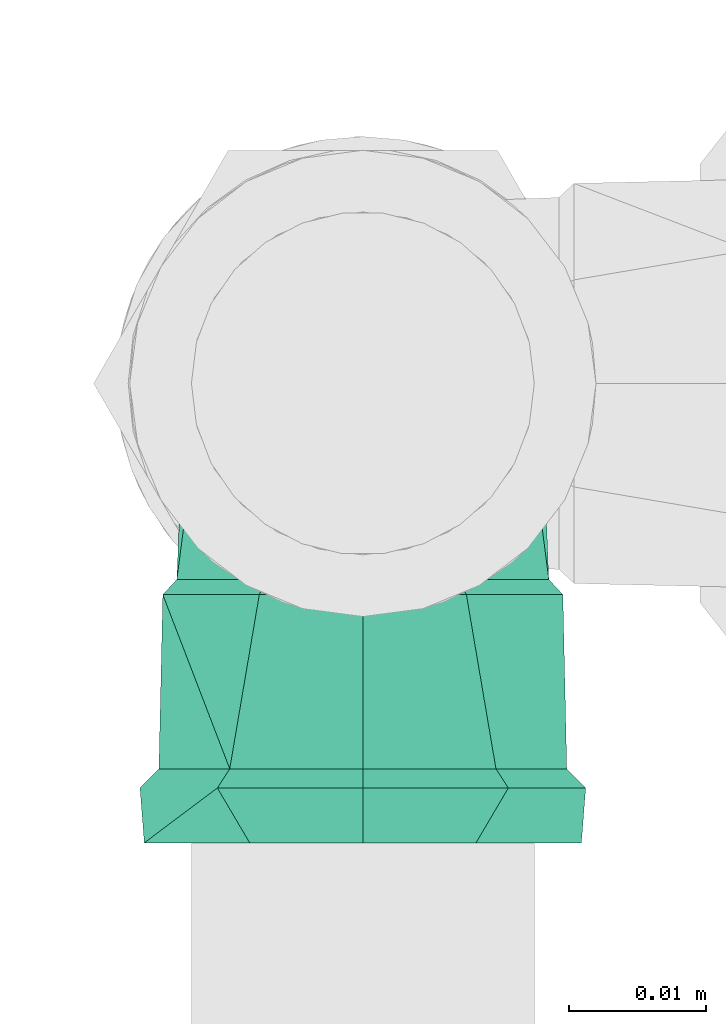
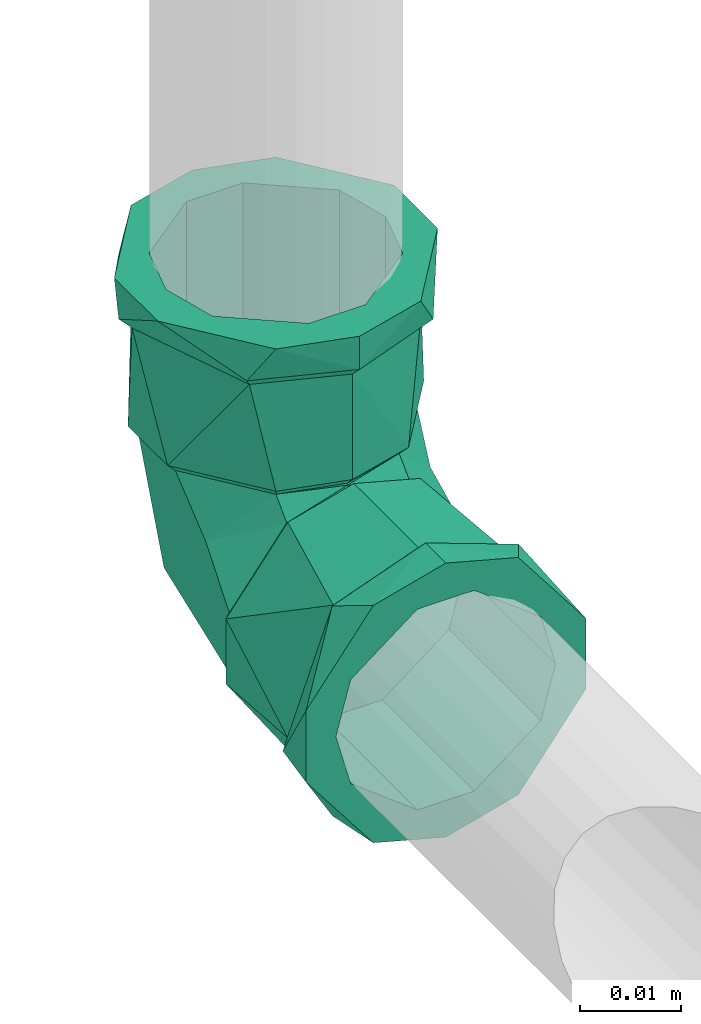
# One storey, part 379 of 589: 1 flow fitting.
"""IFC2X3 building model written with IfcOpenShell, lengths in millimetres."""

from ifc_helpers import new_model, entity, si_unit, converted_unit, derived_unit, direction, frame, origin, place, context, subcontext, project, spatial, faceted_brep, source, transform, mapped, material, type_object, type_shapes, element, save


model = new_model("IFC2X3")

# Units and contexts
model_context = context("Model", 3, precision=0.01, world=origin(), true_north=direction((6.123031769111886e-17, 1.0)))
body_context = subcontext(model_context, "Body", "Model", "MODEL_VIEW")
ifc_project = project(units=[si_unit("LENGTHUNIT", "METRE", prefix="MILLI"), si_unit("AREAUNIT", "SQUARE_METRE"), si_unit("VOLUMEUNIT", "CUBIC_METRE"), converted_unit("PLANEANGLEUNIT", "DEGREE", entity("IfcRatioMeasure", 0.017453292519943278), si_unit("PLANEANGLEUNIT", "RADIAN"), dimensions=[0, 0, 0, 0, 0, 0, 0]), si_unit("MASSUNIT", "GRAM", prefix="KILO"), derived_unit("MASSDENSITYUNIT", [(si_unit("MASSUNIT", "GRAM", prefix="KILO"), 1), (si_unit("LENGTHUNIT", "METRE"), -3)]), derived_unit("IONCONCENTRATIONUNIT", [(si_unit("MASSUNIT", "GRAM", prefix="KILO"), 1), (si_unit("LENGTHUNIT", "METRE"), -3)]), derived_unit("MOMENTOFINERTIAUNIT", [(si_unit("LENGTHUNIT", "METRE"), 4)]), si_unit("TIMEUNIT", "SECOND"), si_unit("FREQUENCYUNIT", "HERTZ"), si_unit("THERMODYNAMICTEMPERATUREUNIT", "DEGREE_CELSIUS"), derived_unit("THERMALTRANSMITTANCEUNIT", [(si_unit("MASSUNIT", "GRAM", prefix="KILO"), 1), (si_unit("THERMODYNAMICTEMPERATUREUNIT", "KELVIN"), -1), (si_unit("TIMEUNIT", "SECOND"), -3)]), derived_unit("THERMALCONDUCTANCEUNIT", [(si_unit("MASSUNIT", "GRAM", prefix="KILO"), 1), (si_unit("THERMODYNAMICTEMPERATUREUNIT", "KELVIN"), -1), (si_unit("TIMEUNIT", "SECOND"), -3), (si_unit("LENGTHUNIT", "METRE"), 1)]), derived_unit("VOLUMETRICFLOWRATEUNIT", [(si_unit("LENGTHUNIT", "METRE"), 3), (si_unit("TIMEUNIT", "SECOND"), -1)]), derived_unit("MASSFLOWRATEUNIT", [(si_unit("MASSUNIT", "GRAM", prefix="KILO"), 1), (si_unit("TIMEUNIT", "SECOND"), -1)]), derived_unit("ROTATIONALFREQUENCYUNIT", [(si_unit("TIMEUNIT", "SECOND"), -1)]), si_unit("ELECTRICCURRENTUNIT", "AMPERE"), si_unit("ELECTRICVOLTAGEUNIT", "VOLT"), si_unit("POWERUNIT", "WATT"), si_unit("FORCEUNIT", "NEWTON", prefix="KILO"), si_unit("ILLUMINANCEUNIT", "LUX"), si_unit("LUMINOUSFLUXUNIT", "LUMEN"), si_unit("LUMINOUSINTENSITYUNIT", "CANDELA"), derived_unit("USERDEFINED", [(si_unit("MASSUNIT", "GRAM", prefix="KILO"), -1), (si_unit("LENGTHUNIT", "METRE"), -2), (si_unit("TIMEUNIT", "SECOND"), 3), (si_unit("LUMINOUSFLUXUNIT", "LUMEN"), 1)]), derived_unit("USERDEFINED", [(si_unit("MASSUNIT", "GRAM", prefix="KILO"), 1), (si_unit("TIMEUNIT", "SECOND"), -3), (si_unit("LENGTHUNIT", "METRE"), 3), (si_unit("ELECTRICCURRENTUNIT", "AMPERE"), -2)]), derived_unit("SOUNDPOWERUNIT", [(si_unit("MASSUNIT", "GRAM", prefix="KILO"), 1), (si_unit("TIMEUNIT", "SECOND"), -3), (si_unit("LENGTHUNIT", "METRE"), 2)]), derived_unit("SOUNDPRESSUREUNIT", [(si_unit("MASSUNIT", "GRAM", prefix="KILO"), 1), (si_unit("LENGTHUNIT", "METRE"), -1), (si_unit("TIMEUNIT", "SECOND"), -2)]), derived_unit("LINEARVELOCITYUNIT", [(si_unit("LENGTHUNIT", "METRE"), 1), (si_unit("TIMEUNIT", "SECOND"), -1)]), si_unit("PRESSUREUNIT", "PASCAL"), derived_unit("USERDEFINED", [(si_unit("MASSUNIT", "GRAM", prefix="KILO"), 1), (si_unit("LENGTHUNIT", "METRE"), -2), (si_unit("TIMEUNIT", "SECOND"), -2)]), derived_unit("LINEARFORCEUNIT", [(si_unit("MASSUNIT", "GRAM", prefix="KILO"), 1), (si_unit("TIMEUNIT", "SECOND"), -2)]), derived_unit("PLANARFORCEUNIT", [(si_unit("MASSUNIT", "GRAM", prefix="KILO"), 1), (si_unit("LENGTHUNIT", "METRE"), -1), (si_unit("TIMEUNIT", "SECOND"), -2)]), derived_unit("SPECIFICHEATCAPACITYUNIT", [(si_unit("THERMODYNAMICTEMPERATUREUNIT", "KELVIN"), -1), (si_unit("LENGTHUNIT", "METRE"), 2), (si_unit("TIMEUNIT", "SECOND"), -2)]), derived_unit("HEATINGVALUEUNIT", [(si_unit("LENGTHUNIT", "METRE"), 2), (si_unit("TIMEUNIT", "SECOND"), -2)]), derived_unit("VAPORPERMEABILITYUNIT", [(si_unit("LENGTHUNIT", "METRE"), -1), (si_unit("TIMEUNIT", "SECOND"), 1)]), derived_unit("DYNAMICVISCOSITYUNIT", [(si_unit("MASSUNIT", "GRAM", prefix="KILO"), 1), (si_unit("TIMEUNIT", "SECOND"), -1), (si_unit("LENGTHUNIT", "METRE"), -1)]), derived_unit("THERMALEXPANSIONCOEFFICIENTUNIT", [(si_unit("THERMODYNAMICTEMPERATUREUNIT", "KELVIN"), -1)]), derived_unit("MODULUSOFELASTICITYUNIT", [(si_unit("MASSUNIT", "GRAM", prefix="KILO"), 1), (si_unit("LENGTHUNIT", "METRE"), -1), (si_unit("TIMEUNIT", "SECOND"), -2)]), derived_unit("ISOTHERMALMOISTURECAPACITYUNIT", [(si_unit("LENGTHUNIT", "METRE"), 3), (si_unit("MASSUNIT", "GRAM", prefix="KILO"), -1)]), derived_unit("MOISTUREDIFFUSIVITYUNIT", [(si_unit("TIMEUNIT", "SECOND"), -1), (si_unit("LENGTHUNIT", "METRE"), 2)])], contexts=[model_context])

# Site, building, storey
site_placement = place(None, origin())
site = spatial("IfcSite", under=ifc_project, at=site_placement, Name="Default", CompositionType="ELEMENT")
building_placement = place(site_placement, origin())
building = spatial("IfcBuilding", under=site, at=building_placement, CompositionType="ELEMENT")
storey_placement = place(building_placement, frame((0.0, 0.0, 100.0)))
storey = spatial("IfcBuildingStorey", under=building, at=storey_placement, Name="TÉRREO", CompositionType="ELEMENT", Elevation=100.0)

# Flow fitting
ifc_material = material(Name="PVC Marrom")
pipe_fitting_type = type_object("IfcPipeFittingType", Name="PVC Marrom Soldável_Joelho 45°_90°_Rodrigo MEP:Joelho", PredefinedType="NOTDEFINED", material=ifc_material)
shared_shape = source(origin(), body_context, "Body", "Brep", [
    faceted_brep([(3.908167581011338, 15.40000000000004, 14.585479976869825), (13.076983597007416, 15.40000000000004, 7.549999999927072), (15.099999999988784, 15.40000000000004, 0.0), (13.076983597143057, 15.40000000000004, -7.55000000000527), (3.9081675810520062, 15.40000000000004, -14.585479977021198), (-3.9081675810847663, 15.40000000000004, -14.585479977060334), (-13.076983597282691, 15.40000000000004, -7.550000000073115), (-15.100000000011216, 15.40000000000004, 0.0), (-13.076983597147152, 15.40000000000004, 7.549999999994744), (-3.908167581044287, 15.40000000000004, 14.585479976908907), (-3.633819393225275, 14.30000000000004, 13.561598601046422), (-12.158996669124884, 14.30000000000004, 7.0199999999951), (-14.040000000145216, 14.30000000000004, 0.0), (-12.158996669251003, 14.30000000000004, -7.020000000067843), (-3.6338193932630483, 14.30000000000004, -13.561598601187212), (3.6338193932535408, 14.30000000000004, -13.561598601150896), (12.158996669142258, 14.30000000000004, -7.020000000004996), (14.039999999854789, 14.30000000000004, 0.0), (12.158996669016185, 14.30000000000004, 7.0199999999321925), (3.6338193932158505, 14.30000000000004, 13.561598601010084)], [[[0, 1, 2, 3, 4, 5, 6, 7, 8, 9]], [[10, 11, 12, 13, 14, 15, 16, 17, 18, 19]], [[3, 17, 16]], [[4, 3, 16, 15]], [[3, 2, 17]], [[15, 14, 5, 4]], [[6, 5, 14, 13]], [[7, 13, 12]], [[7, 6, 13]], [[8, 12, 11]], [[9, 8, 11, 10]], [[8, 7, 12]], [[10, 19, 0, 9]], [[1, 0, 19, 18]], [[2, 18, 17]], [[2, 1, 18]]]),
    faceted_brep([(-15.399999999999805, 3.908167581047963, 14.585479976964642), (-15.399999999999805, 13.076983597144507, 7.549999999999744), (-15.399999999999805, 15.100000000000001, 0.0), (-15.399999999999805, 13.076983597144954, -7.54999999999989), (-15.399999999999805, 3.9081675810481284, -14.58547997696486), (-15.399999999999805, -3.9081675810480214, -14.585479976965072), (-15.399999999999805, -13.0769835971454, -7.550000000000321), (-15.399999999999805, -15.099999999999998, 0.0), (-15.399999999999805, -13.076983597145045, 7.550000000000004), (-15.399999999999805, -3.908167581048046, 14.585479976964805), (-14.299999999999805, 12.158996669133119, 7.019999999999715), (-14.299999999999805, 3.6338193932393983, 13.561598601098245), (-14.299999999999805, -3.633819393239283, 13.56159860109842), (-14.299999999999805, -12.15899666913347, 7.020000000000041), (-14.299999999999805, -14.040000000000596, 0.0), (-14.299999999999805, -12.158996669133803, -7.020000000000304), (-14.299999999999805, -3.63381939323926, -13.561598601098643), (-14.299999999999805, 3.6338193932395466, -13.56159860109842), (-14.299999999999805, 12.158996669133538, -7.019999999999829), (-14.299999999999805, 14.03999999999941, 0.0)], [[[0, 1, 2, 3, 4, 5, 6, 7, 8, 9]], [[10, 11, 12, 13, 14, 15, 16, 17, 18, 19]], [[3, 2, 19, 18]], [[4, 3, 18, 17]], [[17, 16, 5, 4]], [[6, 5, 16, 15]], [[7, 6, 15, 14]], [[8, 7, 14, 13]], [[9, 8, 13, 12]], [[12, 11, 0, 9]], [[1, 0, 11, 10]], [[2, 1, 10, 19]]]),
    faceted_brep([(-33.4999999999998, -4.2705142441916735, -15.937776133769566), (-33.4999999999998, -6.250000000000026, -10.825317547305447), (-33.4999999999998, 0.0, -12.5), (-33.4999999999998, -14.289419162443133, -8.25000000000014), (-33.4999999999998, 4.270514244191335, -15.937776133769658), (-33.4999999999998, -12.074072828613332, -3.23523806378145), (-33.4999999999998, -16.499999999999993, 0.0), (-33.4999999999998, -12.074072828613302, 3.2352380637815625), (-33.4999999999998, -14.289419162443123, 8.249999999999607), (-33.4999999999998, -6.249999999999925, 10.825317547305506), (-33.4999999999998, -4.27051424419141, 15.937776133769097), (-33.4999999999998, 0.0, 12.5), (-33.4999999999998, 4.270514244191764, 15.937776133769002), (-33.4999999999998, 6.249999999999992, 10.825317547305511), (-33.4999999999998, 14.28941916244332, 8.249999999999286), (-33.4999999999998, 12.074072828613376, 3.2352380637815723), (-33.4999999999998, 16.500000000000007, 0.0), (-33.4999999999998, 12.074072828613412, -3.235238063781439), (-33.4999999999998, 14.289419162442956, -8.250000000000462), (-33.4999999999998, 6.250000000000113, -10.82531754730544), (-29.499999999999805, 16.5, 0.0), (-29.500000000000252, 12.639142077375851, 10.606700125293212), (-29.50000000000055, 2.8633833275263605, 16.249647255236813), (-29.50000000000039, -12.64180232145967, 10.603529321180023), (-29.499999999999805, -16.499999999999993, 0.0), (-29.500000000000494, -4.889209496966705, 13.426588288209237), (-29.49999999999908, -12.641802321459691, -10.603529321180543), (-29.49999999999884, -2.8674593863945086, -16.24892847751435), (-29.499999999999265, 12.639142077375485, -10.606700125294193), (-29.499999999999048, 4.885841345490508, -13.427814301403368), (-28.099999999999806, -15.099999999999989, 0.0), (-28.10000000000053, -11.56916454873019, 9.703835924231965), (-28.100000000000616, -4.474367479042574, 12.287362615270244), (-28.1000000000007, 2.6204295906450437, 14.870889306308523), (-28.100000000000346, 11.566730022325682, 9.706737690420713), (-28.09999999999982, 15.099999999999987, 0.0), (-28.099999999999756, 11.566730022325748, -9.706737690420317), (-28.09999999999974, 4.4712851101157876, -12.28848460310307), (-28.09999999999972, -2.6241598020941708, -14.870231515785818), (-28.09999999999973, -11.569164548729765, -9.703835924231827), (-15.399999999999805, 0.0, -12.5), (-15.399999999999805, -6.250000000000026, -10.825317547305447), (-15.399999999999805, -3.908167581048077, -14.585479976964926), (-15.399999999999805, 3.9081675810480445, -14.585479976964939), (-15.399999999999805, 6.250000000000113, -10.82531754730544), (-15.399999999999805, -13.076983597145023, -7.549999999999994), (-15.399999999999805, -12.074072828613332, -3.23523806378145), (-15.399999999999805, -15.099999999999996, 0.0), (-15.399999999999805, -12.074072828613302, 3.2352380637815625), (-15.399999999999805, -13.076983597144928, 7.550000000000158), (-15.399999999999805, -6.249999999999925, 10.825317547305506), (-15.399999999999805, -3.9081675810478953, 14.585479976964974), (-15.399999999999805, 0.0, 12.5), (-15.399999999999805, 3.9081675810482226, 14.58547997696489), (-15.399999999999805, 6.249999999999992, 10.825317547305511), (-15.399999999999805, 13.076983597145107, 7.549999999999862), (-15.399999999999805, 12.074072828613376, 3.2352380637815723), (-15.399999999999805, 15.100000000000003, 0.0), (-15.399999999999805, 12.074072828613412, -3.235238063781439), (-15.399999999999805, 13.076983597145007, -7.550000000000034)], [[[0, 1, 2]], [[1, 0, 3]], [[2, 4, 0]], [[3, 5, 1]], [[3, 6, 5]], [[5, 6, 7]], [[8, 7, 6]], [[7, 8, 9]], [[10, 9, 8]], [[9, 10, 11]], [[11, 10, 12]], [[12, 13, 11]], [[14, 13, 12]], [[13, 14, 15]], [[16, 15, 14]], [[16, 17, 15]], [[18, 17, 16]], [[19, 17, 18]], [[19, 18, 4]], [[4, 2, 19]], [[16, 14, 20]], [[14, 21, 20]], [[21, 14, 12]], [[21, 12, 22]], [[23, 10, 8]], [[24, 8, 6]], [[10, 23, 25, 22]], [[23, 8, 24]], [[10, 22, 12]], [[6, 3, 24]], [[3, 26, 24]], [[26, 3, 0]], [[26, 0, 27]], [[28, 4, 18]], [[20, 18, 16]], [[4, 28, 29, 27]], [[28, 18, 20]], [[4, 27, 0]], [[30, 31, 23, 24]], [[31, 32, 33, 22, 25, 23]], [[34, 35, 20, 21]], [[34, 21, 22, 33]], [[35, 36, 28, 20]], [[36, 37, 38, 27, 29, 28]], [[39, 30, 24, 26]], [[39, 26, 27, 38]], [[40, 41, 42]], [[42, 43, 40]], [[44, 40, 43]], [[45, 42, 41]], [[41, 46, 45]], [[46, 47, 45]], [[48, 47, 46]], [[47, 48, 49]], [[50, 49, 48]], [[49, 50, 51]], [[52, 51, 50]], [[53, 51, 52]], [[52, 54, 53]], [[53, 54, 55]], [[56, 55, 54]], [[55, 56, 57]], [[56, 58, 57]], [[59, 58, 44]], [[57, 58, 59]], [[43, 59, 44]], [[35, 34, 55]], [[35, 55, 57]], [[55, 34, 53]], [[34, 33, 53]], [[51, 33, 32, 31]], [[49, 31, 30]], [[31, 49, 51]], [[49, 30, 47]], [[33, 51, 53]], [[30, 39, 45]], [[30, 45, 47]], [[45, 39, 42]], [[39, 38, 42]], [[43, 38, 37, 36]], [[59, 36, 35]], [[36, 59, 43]], [[59, 35, 57]], [[38, 43, 42]], [[9, 11, 52, 50]], [[7, 9, 50, 48]], [[48, 46, 5, 7]], [[1, 5, 46, 41]], [[2, 1, 41, 40]], [[19, 2, 40, 44]], [[17, 19, 44, 58]], [[58, 56, 15, 17]], [[13, 15, 56, 54]], [[11, 13, 54, 52]]]),
    faceted_brep([(-14.299999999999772, -3.6338193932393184, -13.561598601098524), (-14.299999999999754, -12.158996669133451, -7.020000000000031), (-14.29999999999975, -14.039999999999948, 0.0), (-14.299999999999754, -12.158996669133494, 7.019999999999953), (-14.299999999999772, -3.6338193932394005, 13.561598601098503), (-14.299999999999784, 3.633819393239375, 13.561598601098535), (-14.299999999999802, 12.158996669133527, 7.0200000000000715), (-14.299999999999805, 14.04000000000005, 0.0), (-14.299999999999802, 12.158996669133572, -7.019999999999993), (-14.299999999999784, 3.63381939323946, -13.561598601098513), (3.633819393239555, 14.29999999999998, -13.561598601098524), (-3.633819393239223, 14.300000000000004, -13.561598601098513), (-12.158996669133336, 14.300000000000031, -7.019999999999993), (-14.039999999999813, 14.300000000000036, 0.0), (-12.158996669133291, 14.300000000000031, 7.0200000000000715), (-3.6338193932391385, 14.300000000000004, 13.561598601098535), (3.6338193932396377, 14.29999999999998, 13.561598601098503), (12.158996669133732, 14.299999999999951, 7.019999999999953), (14.040000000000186, 14.299999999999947, 0.0), (12.158996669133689, 14.299999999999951, -7.020000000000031), (-0.45476175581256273, 0.4547603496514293, 13.009299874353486), (-4.991226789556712, -9.102895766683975, 8.866254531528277), (-2.689013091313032, -7.336393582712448, 0.0), (3.7770734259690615, -3.6031967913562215, 0.0), (9.09033094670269, 4.905775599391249, 8.841582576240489), (10.243159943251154, 0.13000000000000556, 0.0), (-14.116152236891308, 14.116152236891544, 0.0), (-8.296884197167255, 8.29688403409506, 12.78130953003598), (-0.454761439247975, 0.45476027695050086, -13.009299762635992), (-8.296884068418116, 8.296883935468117, -12.78130960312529), (9.090330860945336, 4.90577564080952, -8.84158269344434), (-4.991226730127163, -9.10289574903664, -8.866254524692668)], [[[0, 1, 2, 3, 4, 5, 6, 7, 8, 9]], [[10, 11, 12, 13, 14, 15, 16, 17, 18, 19]], [[4, 20, 5]], [[21, 3, 22]], [[20, 4, 21]], [[21, 22, 23]], [[17, 24, 25]], [[26, 6, 14]], [[23, 20, 21]], [[26, 7, 6]], [[6, 5, 27]], [[3, 2, 22]], [[20, 23, 24]], [[25, 18, 17]], [[20, 27, 5]], [[16, 20, 24]], [[17, 16, 24]], [[6, 27, 14]], [[26, 14, 13]], [[21, 4, 3]], [[27, 15, 14]], [[27, 20, 15]], [[23, 25, 24]], [[15, 20, 16]], [[8, 7, 26]], [[28, 29, 11]], [[28, 10, 30]], [[8, 12, 29]], [[31, 22, 1]], [[31, 23, 22]], [[28, 9, 29]], [[19, 30, 10]], [[0, 28, 31]], [[1, 22, 2]], [[8, 26, 12]], [[12, 11, 29]], [[8, 29, 9]], [[31, 1, 0]], [[10, 28, 11]], [[30, 19, 25]], [[0, 9, 28]], [[19, 18, 25]], [[25, 23, 30]], [[23, 31, 28]], [[30, 23, 28]], [[12, 26, 13]]]),
    faceted_brep([(0.0, 15.40000000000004, -12.5), (-6.249999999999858, 15.40000000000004, -10.825317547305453), (-3.908167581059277, 15.40000000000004, -14.585479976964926), (3.9081675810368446, 15.40000000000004, -14.585479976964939), (6.250000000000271, 15.40000000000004, -10.82531754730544), (-13.076983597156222, 15.40000000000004, -7.549999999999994), (-12.07407282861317, 15.40000000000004, -3.235238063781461), (-15.100000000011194, 15.40000000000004, 0.0), (-12.074072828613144, 15.40000000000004, 3.2352380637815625), (-13.076983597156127, 15.40000000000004, 7.550000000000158), (-6.249999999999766, 15.40000000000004, 10.825317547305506), (-3.9081675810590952, 15.40000000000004, 14.585479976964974), (0.0, 15.40000000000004, 12.5), (3.9081675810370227, 15.40000000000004, 14.58547997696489), (6.250000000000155, 15.40000000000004, 10.825317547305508), (13.076983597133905, 15.40000000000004, 7.549999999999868), (12.074072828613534, 15.40000000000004, 3.2352380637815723), (15.099999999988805, 15.40000000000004, 0.0), (12.07407282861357, 15.40000000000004, -3.235238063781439), (13.07698359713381, 15.40000000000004, -7.550000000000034), (15.099999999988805, 28.10000000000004, 0.0), (11.56673002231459, 28.100000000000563, 9.706737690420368), (4.471285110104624, 28.10000000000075, 12.288484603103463), (-2.624159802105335, 28.100000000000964, 14.870231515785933), (-11.569164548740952, 28.10000000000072, 9.703835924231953), (-15.100000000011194, 28.10000000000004, 0.0), (-11.569164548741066, 28.10000000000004, -9.703835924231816), (-4.474367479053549, 28.10000000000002, -12.287362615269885), (2.6204295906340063, 28.099999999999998, -14.870889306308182), (11.566730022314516, 28.10000000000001, -9.706737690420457), (-12.639142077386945, 29.50000000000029, 10.606700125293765), (-16.50000000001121, 29.500000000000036, 0.0), (-2.8633833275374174, 29.50000000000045, 16.249647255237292), (12.641802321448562, 29.500000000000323, 10.603529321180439), (4.889209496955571, 29.500000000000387, 13.426588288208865), (16.499999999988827, 29.50000000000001, 0.0), (12.64180232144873, 29.500000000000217, -10.603529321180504), (2.867459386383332, 29.500000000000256, -16.24892847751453), (-12.639142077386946, 29.500000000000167, -10.606700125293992), (-4.885841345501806, 29.500000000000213, -13.427814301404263), (-4.270514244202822, 33.50000000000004, -15.937776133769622), (-6.249999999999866, 33.50000000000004, -10.825317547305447), (0.0, 33.50000000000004, -12.5), (-14.289419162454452, 33.50000000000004, -8.249999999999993), (4.270514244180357, 33.50000000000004, -15.937776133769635), (-12.074072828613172, 33.50000000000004, -3.23523806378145), (-16.50000000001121, 33.50000000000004, 0.0), (-12.074072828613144, 33.50000000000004, 3.2352380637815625), (-14.28941916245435, 33.50000000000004, 8.250000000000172), (-6.2499999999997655, 33.50000000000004, 10.825317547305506), (-4.270514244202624, 33.50000000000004, 15.937776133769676), (0.0, 33.50000000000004, 12.5), (4.270514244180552, 33.50000000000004, 15.937776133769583), (6.250000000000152, 33.50000000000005, 10.825317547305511), (14.289419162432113, 33.50000000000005, 8.249999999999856), (12.074072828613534, 33.50000000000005, 3.2352380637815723), (16.49999999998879, 33.50000000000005, 0.0), (12.07407282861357, 33.50000000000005, -3.235238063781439), (14.289419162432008, 33.50000000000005, -8.250000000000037), (6.250000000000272, 33.50000000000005, -10.82531754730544)], [[[0, 1, 2]], [[2, 3, 0]], [[4, 0, 3]], [[5, 2, 1]], [[1, 6, 5]], [[6, 7, 5]], [[8, 7, 6]], [[7, 8, 9]], [[10, 9, 8]], [[9, 10, 11]], [[12, 11, 10]], [[13, 11, 12]], [[12, 14, 13]], [[13, 14, 15]], [[16, 15, 14]], [[15, 16, 17]], [[16, 18, 17]], [[19, 18, 4]], [[17, 18, 19]], [[3, 19, 4]], [[20, 21, 15]], [[20, 15, 17]], [[15, 21, 13]], [[13, 21, 22, 23]], [[11, 23, 24]], [[9, 24, 25]], [[24, 9, 11]], [[9, 25, 7]], [[23, 11, 13]], [[25, 26, 5]], [[25, 5, 7]], [[5, 26, 2]], [[2, 26, 27, 28]], [[3, 28, 29]], [[19, 29, 20]], [[29, 19, 3]], [[19, 20, 17]], [[28, 3, 2]], [[24, 23, 30]], [[25, 24, 31]], [[31, 24, 30]], [[23, 32, 30]], [[21, 20, 33]], [[21, 33, 34]], [[22, 32, 23]], [[35, 33, 20]], [[32, 22, 34]], [[22, 21, 34]], [[20, 29, 36]], [[36, 35, 20]], [[37, 36, 29]], [[38, 39, 27]], [[29, 28, 37]], [[26, 25, 31]], [[38, 27, 26]], [[38, 26, 31]], [[28, 39, 37]], [[39, 28, 27]], [[40, 41, 42]], [[41, 40, 43]], [[42, 44, 40]], [[43, 45, 41]], [[43, 46, 45]], [[45, 46, 47]], [[48, 47, 46]], [[47, 48, 49]], [[50, 49, 48]], [[49, 50, 51]], [[51, 50, 52]], [[52, 53, 51]], [[54, 53, 52]], [[53, 54, 55]], [[56, 55, 54]], [[56, 57, 55]], [[58, 57, 56]], [[59, 57, 58]], [[59, 58, 44]], [[44, 42, 59]], [[56, 54, 35]], [[54, 33, 35]], [[33, 54, 52]], [[52, 32, 34, 33]], [[30, 50, 48]], [[31, 48, 46]], [[50, 30, 32]], [[30, 48, 31]], [[50, 32, 52]], [[46, 43, 31]], [[43, 38, 31]], [[38, 43, 40]], [[40, 37, 39, 38]], [[36, 44, 58]], [[35, 58, 56]], [[44, 36, 37]], [[36, 58, 35]], [[44, 37, 40]], [[49, 51, 12, 10]], [[47, 49, 10, 8]], [[8, 6, 45, 47]], [[41, 45, 6, 1]], [[42, 41, 1, 0]], [[59, 42, 0, 4]], [[57, 59, 4, 18]], [[18, 16, 55, 57]], [[53, 55, 16, 14]], [[51, 53, 14, 12]]]),
])
type_shapes(pipe_fitting_type, [shared_shape])
flow_fitting_placement = place(storey_placement, frame((431.84239219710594, -5595.395968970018, 600.0), z_axis=(1.0, 0.0, 0.0), x_axis=(0.0, 1.0, 0.0)))
element("IfcFlowFitting", 1, at=flow_fitting_placement, inside=storey, type_object=pipe_fitting_type, material=ifc_material, Name="PVC Marrom Soldável_Joelho 45°_90°_Rodrigo MEP:Joelho", ObjectType="PVC Marrom Soldável_Joelho 45°_90°_Rodrigo MEP:Joelho", context=body_context, shape_type="MappedRepresentation", body=[
    mapped(shared_shape, transform((0.0, 0.0, 0.0), scale=1.0)),
])

save(model, "model.ifc")
